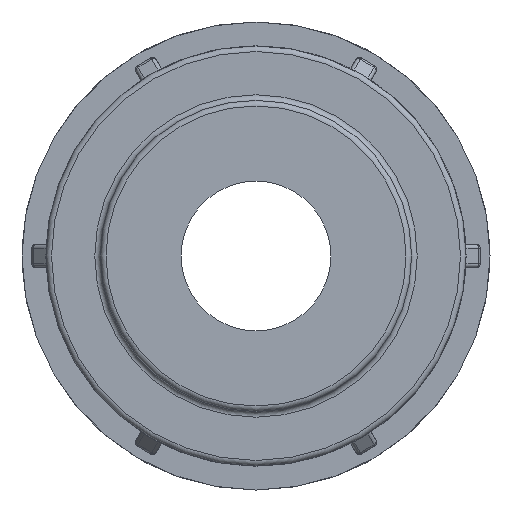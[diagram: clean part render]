
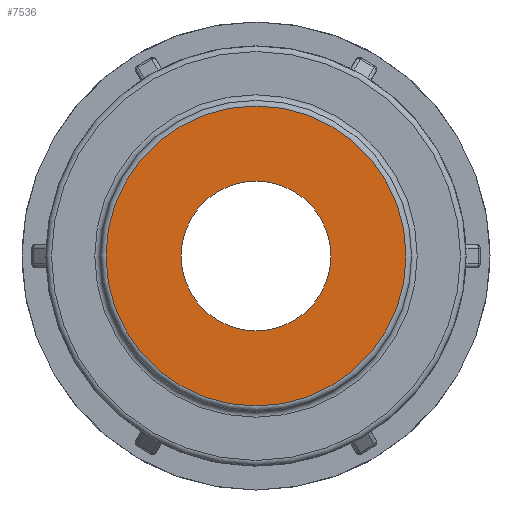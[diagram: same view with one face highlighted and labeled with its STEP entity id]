
A CAD part, left-side view. The second image highlights one B-rep face of the part: STEP entity #7536.
In plain terms, the highlighted planar face has unit normal (-1, 0, 0).
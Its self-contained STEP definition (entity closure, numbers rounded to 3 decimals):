
#20=FACE_BOUND('',#1406,.T.);
#283=PLANE('',#8448);
#931=FACE_OUTER_BOUND('',#1405,.T.);
#1405=EDGE_LOOP('',(#6787));
#1406=EDGE_LOOP('',(#6788));
#2828=CIRCLE('',#8444,16.025);
#2831=CIRCLE('',#8449,8.);
#3513=VERTEX_POINT('',#14503);
#3516=VERTEX_POINT('',#14511);
#4630=EDGE_CURVE('',#3513,#3513,#2828,.T.);
#4633=EDGE_CURVE('',#3516,#3516,#2831,.T.);
#6787=ORIENTED_EDGE('',*,*,#4630,.F.);
#6788=ORIENTED_EDGE('',*,*,#4633,.T.);
#7536=ADVANCED_FACE('',(#931,#20),#283,.T.);
#8444=AXIS2_PLACEMENT_3D('',#14504,#10708,#10709);
#8448=AXIS2_PLACEMENT_3D('',#14510,#10716,#10717);
#8449=AXIS2_PLACEMENT_3D('',#14512,#10718,#10719);
#10708=DIRECTION('center_axis',(1.,0.,0.));
#10709=DIRECTION('ref_axis',(0.,-1.,0.));
#10716=DIRECTION('center_axis',(-1.,0.,0.));
#10717=DIRECTION('ref_axis',(0.,0.,1.));
#10718=DIRECTION('center_axis',(1.,0.,0.));
#10719=DIRECTION('ref_axis',(0.,0.,-1.));
#14503=CARTESIAN_POINT('',(-20.7,16.025,0.));
#14504=CARTESIAN_POINT('Origin',(-20.7,0.,0.));
#14510=CARTESIAN_POINT('Origin',(-20.7,16.625,0.));
#14511=CARTESIAN_POINT('',(-20.7,8.,0.));
#14512=CARTESIAN_POINT('Origin',(-20.7,0.,0.));
